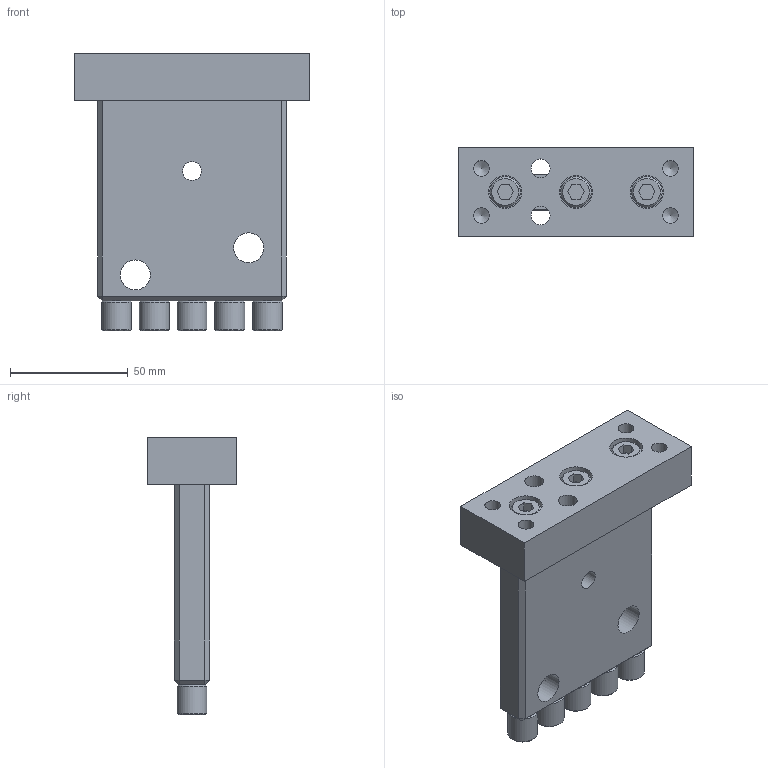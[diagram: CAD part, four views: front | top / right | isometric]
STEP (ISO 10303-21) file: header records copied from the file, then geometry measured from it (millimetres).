
FILE_DESCRIPTION(/* description */ (''),/* implementation_level */ '2;1');
FILE_NAME(/* name */ 'D:\NextGen\CD0017-QuickChange\QC-INSERT.stp',/* time_stamp */ '2019-01-05T14:05:53-05:00',/* author */ ('gskreft'),/* organization */ (''),/* preprocessor_version */ 'ST-DEVELOPER v16.13',/* originating_system */ 'Autodesk Inventor 2018',/* authorisation */ '');
FILE_SCHEMA (('CONFIG_CONTROL_DESIGN'));
Length unit declared in the file: inch
Products named in the file (1): QC-INSERT
Bounding box: 100 x 38 x 117.7 mm (x, y, z)
Volume: 171217.7 mm3; surface area: 49391.5 mm2
Topology: 15 solids, 15 shells, 222 faces, 455 edges, 287 vertices
Faces by surface type: plane 122, cylinder 58, cone 42
Full cylindrical faces by diameter (mm): 3.242 x5, 4 x5, 4.762 x5, 6.647 x7, 6.747 x5, 7 x5, 7.976 x1, 8 x9, 8.5 x3, 12.7 x7, 13 x3, 14 x3
Entity records: 5429 total; most frequent: DIRECTION 922, CARTESIAN_POINT 823, ORIENTED_EDGE 668, EDGE_LOOP 372, AXIS2_PLACEMENT_3D 365, EDGE_CURVE 334, VERTEX_POINT 266, STYLED_ITEM 237
